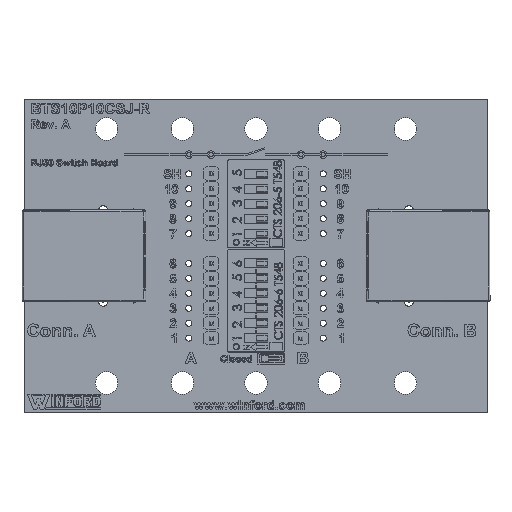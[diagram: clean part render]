
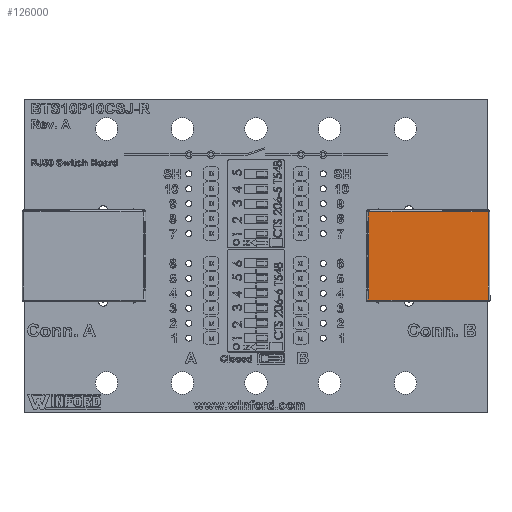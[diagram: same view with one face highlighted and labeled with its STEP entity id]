
A CAD part, top view. The second image highlights one B-rep face of the part: STEP entity #126000.
In plain terms, the highlighted planar face has unit normal (0, 0, 1) as drawn and (0, 1, 0) by its records, which use the part's own axes.
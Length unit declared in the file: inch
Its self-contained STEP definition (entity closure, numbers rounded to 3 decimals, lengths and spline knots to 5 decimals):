
#1344 = CARTESIAN_POINT ( 'NONE',  ( -0.296, 0.538, -0.8105 ) ) ;
#2246 = ORIENTED_EDGE ( 'NONE', *, *, #38985, .T. ) ;
#2968 = VERTEX_POINT ( 'NONE', #247946 ) ;
#5089 = CARTESIAN_POINT ( 'NONE',  ( 0., 0.538, -0.816 ) ) ;
#5497 = ORIENTED_EDGE ( 'NONE', *, *, #74021, .T. ) ;
#7275 = VERTEX_POINT ( 'NONE', #215248 ) ;
#7396 = VERTEX_POINT ( 'NONE', #223574 ) ;
#10097 = EDGE_CURVE ( 'NONE', #236069, #2968, #108188, .T. ) ;
#12111 = CARTESIAN_POINT ( 'NONE',  ( 0.296, 0.538, -0.414 ) ) ;
#12458 = CARTESIAN_POINT ( 'NONE',  ( 0., 0.538, -0.816 ) ) ;
#13724 = DIRECTION ( 'NONE',  ( 0., 1., 0. ) ) ;
#16846 = CARTESIAN_POINT ( 'NONE',  ( 0.296, 0.538, -0.012 ) ) ;
#18864 = VECTOR ( 'NONE', #104791, 39.37008 ) ;
#18959 = CARTESIAN_POINT ( 'NONE',  ( -0.23023, 0.538, -0.816 ) ) ;
#19687 = AXIS2_PLACEMENT_3D ( 'NONE', #41350, #79702, #100898 ) ;
#21781 = EDGE_CURVE ( 'NONE', #7275, #40441, #174677, .T. ) ;
#21782 = DIRECTION ( 'NONE',  ( 0., 0., 1. ) ) ;
#28348 = ORIENTED_EDGE ( 'NONE', *, *, #71349, .T. ) ;
#31949 = DIRECTION ( 'NONE',  ( 0., 0., 1. ) ) ;
#35710 = CARTESIAN_POINT ( 'NONE',  ( -0.222, 0.538, -0.81168 ) ) ;
#37364 = VERTEX_POINT ( 'NONE', #108056 ) ;
#38985 = EDGE_CURVE ( 'NONE', #209806, #71554, #98222, .T. ) ;
#40441 = VERTEX_POINT ( 'NONE', #71868 ) ;
#41350 = CARTESIAN_POINT ( 'NONE',  ( 0.222, 0.538, -0.82168 ) ) ;
#41804 = LINE ( 'NONE', #78227, #47892 ) ;
#42207 = CARTESIAN_POINT ( 'NONE',  ( 0.022, 0.538, -0.82168 ) ) ;
#43179 = FACE_OUTER_BOUND ( 'NONE', #214595, .T. ) ;
#47892 = VECTOR ( 'NONE', #57021, 39.37008 ) ;
#51819 = CARTESIAN_POINT ( 'NONE',  ( 0.296, 0.538, -0.816 ) ) ;
#56204 = AXIS2_PLACEMENT_3D ( 'NONE', #42207, #59323, #159662 ) ;
#57021 = DIRECTION ( 'NONE',  ( -1., 0., 0. ) ) ;
#57493 = CARTESIAN_POINT ( 'NONE',  ( -0.022, 0.538, -0.82168 ) ) ;
#58136 = LINE ( 'NONE', #12111, #167777 ) ;
#59323 = DIRECTION ( 'NONE',  ( 0., -1., 0. ) ) ;
#63545 = CARTESIAN_POINT ( 'NONE',  ( -0.296, 0.538, -0.805 ) ) ;
#64649 = AXIS2_PLACEMENT_3D ( 'NONE', #128910, #245511, #31949 ) ;
#71349 = EDGE_CURVE ( 'NONE', #135896, #86917, #248845, .T. ) ;
#71554 = VERTEX_POINT ( 'NONE', #174730 ) ;
#71868 = CARTESIAN_POINT ( 'NONE',  ( 0.022, 0.538, -0.81168 ) ) ;
#73525 = LINE ( 'NONE', #164433, #119233 ) ;
#74021 = EDGE_CURVE ( 'NONE', #7396, #200592, #171243, .T. ) ;
#74782 = CARTESIAN_POINT ( 'NONE',  ( 0., 0.538, -0.414 ) ) ;
#77536 = ORIENTED_EDGE ( 'NONE', *, *, #10097, .T. ) ;
#78227 = CARTESIAN_POINT ( 'NONE',  ( -0.122, 0.538, -0.81168 ) ) ;
#79702 = DIRECTION ( 'NONE',  ( 0., -1., 0. ) ) ;
#80262 = VERTEX_POINT ( 'NONE', #35710 ) ;
#86917 = VERTEX_POINT ( 'NONE', #109789 ) ;
#89515 = ORIENTED_EDGE ( 'NONE', *, *, #193597, .T. ) ;
#89845 = CARTESIAN_POINT ( 'NONE',  ( -0.296, 0.538, -0.414 ) ) ;
#95484 = EDGE_CURVE ( 'NONE', #140096, #100466, #140584, .T. ) ;
#98222 = LINE ( 'NONE', #5089, #241326 ) ;
#100466 = VERTEX_POINT ( 'NONE', #16846 ) ;
#100898 = DIRECTION ( 'NONE',  ( 0., 0., 1. ) ) ;
#103534 = VECTOR ( 'NONE', #118107, 39.37008 ) ;
#104791 = DIRECTION ( 'NONE',  ( 1., 0., 0. ) ) ;
#108056 = CARTESIAN_POINT ( 'NONE',  ( -0.022, 0.538, -0.81168 ) ) ;
#108188 = LINE ( 'NONE', #89845, #132637 ) ;
#109319 = EDGE_CURVE ( 'NONE', #7396, #100466, #112611, .T. ) ;
#109789 = CARTESIAN_POINT ( 'NONE',  ( 0.23023, 0.538, -0.816 ) ) ;
#110446 = CARTESIAN_POINT ( 'NONE',  ( -0.01377, 0.538, -0.816 ) ) ;
#112611 = LINE ( 'NONE', #156363, #103534 ) ;
#116367 = EDGE_CURVE ( 'NONE', #40441, #124282, #167539, .T. ) ;
#118107 = DIRECTION ( 'NONE',  ( 0., 0., 1. ) ) ;
#119233 = VECTOR ( 'NONE', #168672, 39.37008 ) ;
#122600 = CARTESIAN_POINT ( 'NONE',  ( 0.296, 0.538, -0.805 ) ) ;
#124282 = VERTEX_POINT ( 'NONE', #231621 ) ;
#125293 = DIRECTION ( 'NONE',  ( -1., 0., 0. ) ) ;
#126000 = ADVANCED_FACE ( 'NONE', ( #43179 ), #207545, .T. ) ;
#128910 = CARTESIAN_POINT ( 'NONE',  ( -0.222, 0.538, -0.82168 ) ) ;
#130961 = EDGE_CURVE ( 'NONE', #71554, #236069, #183694, .T. ) ;
#131991 = ORIENTED_EDGE ( 'NONE', *, *, #173895, .T. ) ;
#132637 = VECTOR ( 'NONE', #227585, 39.37008 ) ;
#133056 = CIRCLE ( 'NONE', #64649, 0.01 ) ;
#135896 = VERTEX_POINT ( 'NONE', #51819 ) ;
#136426 = LINE ( 'NONE', #157122, #182053 ) ;
#137502 = ORIENTED_EDGE ( 'NONE', *, *, #237472, .T. ) ;
#138160 = CARTESIAN_POINT ( 'NONE',  ( 0.122, 0.538, -0.81168 ) ) ;
#139909 = ORIENTED_EDGE ( 'NONE', *, *, #95484, .T. ) ;
#140096 = VERTEX_POINT ( 'NONE', #191343 ) ;
#140584 = LINE ( 'NONE', #163547, #18864 ) ;
#141611 = ORIENTED_EDGE ( 'NONE', *, *, #130961, .T. ) ;
#144373 = VECTOR ( 'NONE', #125293, 39.37008 ) ;
#145298 = VECTOR ( 'NONE', #210490, 39.37008 ) ;
#153283 = EDGE_CURVE ( 'NONE', #37364, #80262, #41804, .T. ) ;
#156287 = DIRECTION ( 'NONE',  ( 0., 0., 1. ) ) ;
#156363 = CARTESIAN_POINT ( 'NONE',  ( 0.296, 0.538, -0.1645 ) ) ;
#157122 = CARTESIAN_POINT ( 'NONE',  ( -0.296, 0.538, -0.1645 ) ) ;
#158217 = AXIS2_PLACEMENT_3D ( 'NONE', #74782, #13724, #189708 ) ;
#159033 = ORIENTED_EDGE ( 'NONE', *, *, #153283, .T. ) ;
#159662 = DIRECTION ( 'NONE',  ( 0., 0., 1. ) ) ;
#160923 = CARTESIAN_POINT ( 'NONE',  ( 0.296, 0.538, -0.414 ) ) ;
#163547 = CARTESIAN_POINT ( 'NONE',  ( 0., 0.538, -0.012 ) ) ;
#164423 = VECTOR ( 'NONE', #219631, 39.37008 ) ;
#164433 = CARTESIAN_POINT ( 'NONE',  ( 0., 0.538, -0.816 ) ) ;
#167539 = CIRCLE ( 'NONE', #56204, 0.01 ) ;
#167777 = VECTOR ( 'NONE', #187246, 39.37008 ) ;
#168672 = DIRECTION ( 'NONE',  ( -1., 0., 0. ) ) ;
#171243 = LINE ( 'NONE', #160923, #164423 ) ;
#171831 = ORIENTED_EDGE ( 'NONE', *, *, #21781, .T. ) ;
#173461 = VERTEX_POINT ( 'NONE', #110446 ) ;
#173895 = EDGE_CURVE ( 'NONE', #80262, #209806, #133056, .T. ) ;
#174677 = LINE ( 'NONE', #138160, #144373 ) ;
#174730 = CARTESIAN_POINT ( 'NONE',  ( -0.296, 0.538, -0.816 ) ) ;
#178253 = ORIENTED_EDGE ( 'NONE', *, *, #208945, .T. ) ;
#182053 = VECTOR ( 'NONE', #156287, 39.37008 ) ;
#182848 = ORIENTED_EDGE ( 'NONE', *, *, #236754, .T. ) ;
#183694 = LINE ( 'NONE', #1344, #235392 ) ;
#186772 = AXIS2_PLACEMENT_3D ( 'NONE', #57493, #193657, #21782 ) ;
#187246 = DIRECTION ( 'NONE',  ( 0., 0., -1. ) ) ;
#189708 = DIRECTION ( 'NONE',  ( 0., 0., 1. ) ) ;
#191343 = CARTESIAN_POINT ( 'NONE',  ( -0.296, 0.538, -0.012 ) ) ;
#192892 = EDGE_CURVE ( 'NONE', #200592, #135896, #58136, .T. ) ;
#193597 = EDGE_CURVE ( 'NONE', #173461, #37364, #227883, .T. ) ;
#193657 = DIRECTION ( 'NONE',  ( 0., -1., 0. ) ) ;
#199780 = CIRCLE ( 'NONE', #19687, 0.01 ) ;
#200592 = VERTEX_POINT ( 'NONE', #122600 ) ;
#207545 = PLANE ( 'NONE',  #158217 ) ;
#208945 = EDGE_CURVE ( 'NONE', #2968, #140096, #136426, .T. ) ;
#209806 = VERTEX_POINT ( 'NONE', #18959 ) ;
#210490 = DIRECTION ( 'NONE',  ( -1., 0., 0. ) ) ;
#214595 = EDGE_LOOP ( 'NONE', ( #245611, #28348, #137502, #171831, #242706, #182848, #89515, #159033, #131991, #2246, #141611, #77536, #178253, #139909, #229023, #5497 ) ) ;
#215248 = CARTESIAN_POINT ( 'NONE',  ( 0.222, 0.538, -0.81168 ) ) ;
#219631 = DIRECTION ( 'NONE',  ( 0., 0., -1. ) ) ;
#223574 = CARTESIAN_POINT ( 'NONE',  ( 0.296, 0.538, -0.317 ) ) ;
#227585 = DIRECTION ( 'NONE',  ( 0., 0., 1. ) ) ;
#227883 = CIRCLE ( 'NONE', #186772, 0.01 ) ;
#229023 = ORIENTED_EDGE ( 'NONE', *, *, #109319, .F. ) ;
#231621 = CARTESIAN_POINT ( 'NONE',  ( 0.01377, 0.538, -0.816 ) ) ;
#235392 = VECTOR ( 'NONE', #252231, 39.37008 ) ;
#236069 = VERTEX_POINT ( 'NONE', #63545 ) ;
#236754 = EDGE_CURVE ( 'NONE', #124282, #173461, #73525, .T. ) ;
#237472 = EDGE_CURVE ( 'NONE', #86917, #7275, #199780, .T. ) ;
#238908 = DIRECTION ( 'NONE',  ( -1., 0., 0. ) ) ;
#241326 = VECTOR ( 'NONE', #238908, 39.37008 ) ;
#242706 = ORIENTED_EDGE ( 'NONE', *, *, #116367, .T. ) ;
#245511 = DIRECTION ( 'NONE',  ( 0., -1., 0. ) ) ;
#245611 = ORIENTED_EDGE ( 'NONE', *, *, #192892, .T. ) ;
#247946 = CARTESIAN_POINT ( 'NONE',  ( -0.296, 0.538, -0.317 ) ) ;
#248845 = LINE ( 'NONE', #12458, #145298 ) ;
#252231 = DIRECTION ( 'NONE',  ( 0., 0., 1. ) ) ;
